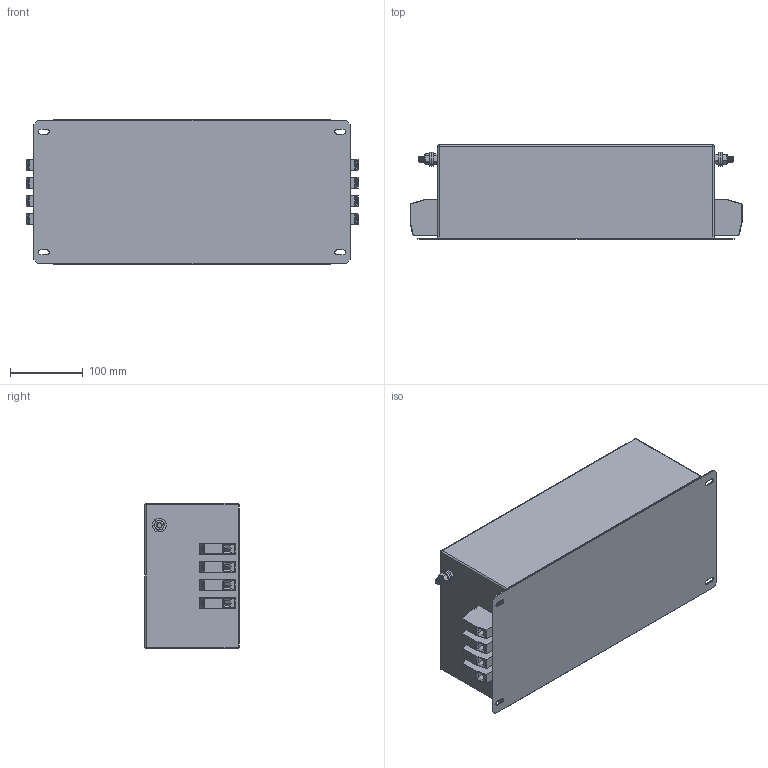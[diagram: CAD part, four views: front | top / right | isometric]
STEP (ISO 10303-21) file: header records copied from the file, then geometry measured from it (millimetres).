
FILE_DESCRIPTION (( 'STEP AP203' ), '1' );
FILE_NAME ('NF-4-120.STEP', '2013-12-18T11:39:42', ( 'Owner' ), ( 'EPA GmbH' ), 'SwSTEP 2.0', 'SolidWorks 2007', '' );
FILE_SCHEMA (( 'CONFIG_CONTROL_DESIGN' ));
Length unit declared in the file: millimetre
Products named in the file (7): HDFK-25; NF-4-120; G BOX 4 PHASE DLC; M8x20 Earth post; Hex Screw_AM_B18.6.7M - M8 x 1.25 x 20 Plain HHMS --20S; Flat Washer Narrow_AM_B18.22M - Plain washer, 8 mm, narrow; Hex Nut Style 1_AM_B18.2.4.1M - Hex nut, Style 1,  M8 x 1.25 --D-N
Assembly tree (15 placements, depth 3):
  NF-4-120
    HDFK-25  x8
    M8x20 Earth post  x2
      Flat Washer Narrow_AM_B18.22M - Plain washer, 8 mm, narrow
      Hex Screw_AM_B18.6.7M - M8 x 1.25 x 20 Plain HHMS --20S
      Hex Nut Style 1_AM_B18.2.4.1M - Hex nut, Style 1,  M8 x 1.25 --D-N
    G BOX 4 PHASE DLC
Bounding box: 457.01 x 130 x 200 mm (x, y, z)
Volume: 9928831.1 mm3; surface area: 477032.7 mm2
Topology: 17 solids, 17 shells, 946 faces, 2242 edges, 1376 vertices
Faces by surface type: plane 588, cone 184, cylinder 170, sphere 4
Entity records: 9484 total; most frequent: CARTESIAN_POINT 1622, DIRECTION 1537, ORIENTED_EDGE 1382, EDGE_CURVE 691, AXIS2_PLACEMENT_3D 583, VERTEX_POINT 428, LINE 371, VECTOR 371
